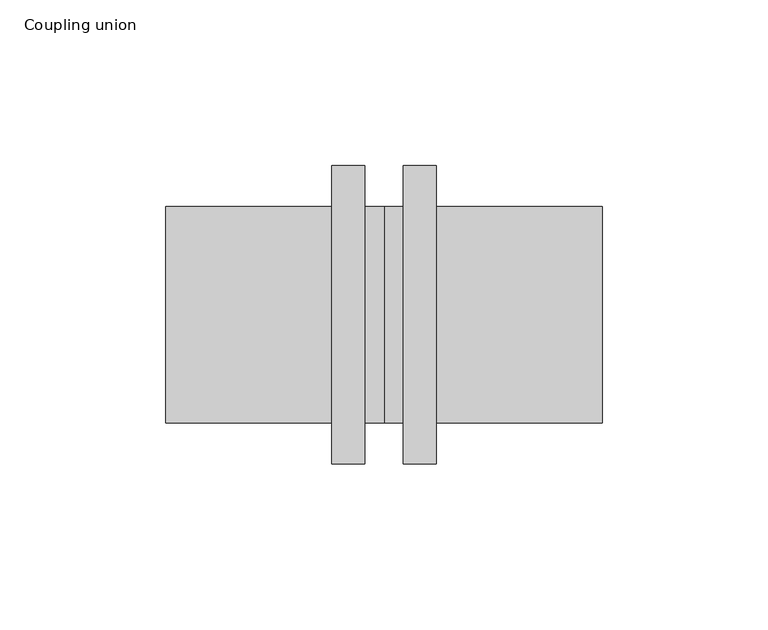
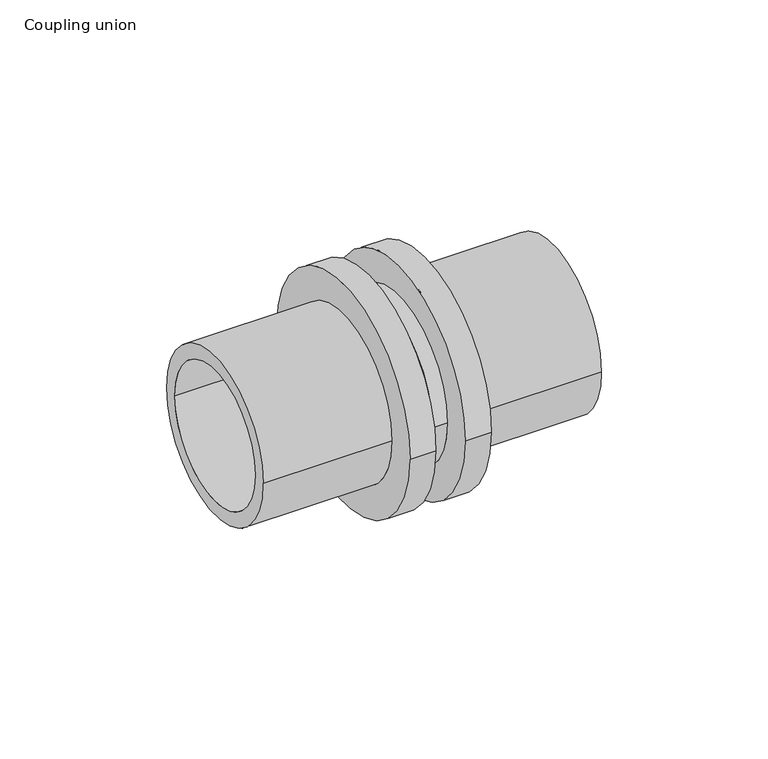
"""IFC4 building model written with IfcOpenShell, lengths in millimetres: pipe fitting geometry, Coupling union : C EQ SDR11 RX."""

from ifc_helpers import new_model, si_unit, frame, origin, place, context, project, spatial, polyline, circle_curve, source, transform, mapped, element, save
from ifc_brep_helpers import plane_surface, cylinder_surface, revolved_surface, advanced_brep


def coupling_union_0abae06c(model_context):
    return source(origin(), model_context, "Body", "AdvancedBrep", [
        advanced_brep(
        [(15.8, 45.0, 0.0), (15.8, -45.0, 0.0), (5.8, -45.0, 0.0), (5.8, 45.0, 0.0), (65.8, 32.7, 0.0), (65.8, -32.7, 0.0), (15.8, -32.7, 0.0), (15.8, 32.7, 0.0), (-65.8, 27.0, 0.0), (-65.8, -27.0, 0.0), (65.8, -27.0, 0.0), (65.8, 27.0, 0.0), (-15.8, 32.7, 0.0), (-15.8, -32.7, 0.0), (-65.8, -32.7, 0.0), (-65.8, 32.7, 0.0), (-5.8, 45.0, 0.0), (-5.8, -45.0, 0.0), (-15.8, -45.0, 0.0), (-15.8, 45.0, 0.0), (0.0, 32.7, 0.0), (0.0, -32.7, 0.0), (-5.8, -32.7, 0.0), (-5.8, 32.7, 0.0), (5.8, 32.7, 0.0), (5.8, -32.7, 0.0)],
        [
            (0, 1, circle_curve(frame((15.8, 0.0, 0.0), z_axis=(-1.0, 0.0, 0.0), x_axis=(0.0, -1.0, 0.0)), 45.0)),
            (1, 2),
            (2, 3, circle_curve(frame((5.8, 0.0, 0.0), z_axis=(1.0, 0.0, 0.0), x_axis=(0.0, -1.0, 0.0)), 45.0)),
            (3, 0),
            (4, 5, circle_curve(frame((65.8, 0.0, 0.0), z_axis=(-1.0, 0.0, 0.0), x_axis=(0.0, -1.0, 0.0)), 32.7)),
            (5, 6),
            (6, 7, circle_curve(frame((15.8, 0.0, 0.0), z_axis=(1.0, 0.0, 0.0), x_axis=(0.0, -1.0, 0.0)), 32.7)),
            (7, 4),
            (8, 9, circle_curve(frame((-65.8, 0.0, 0.0), z_axis=(-1.0, 0.0, 0.0), x_axis=(0.0, -1.0, 0.0)), 27.0)),
            (9, 10),
            (10, 11, circle_curve(frame((65.8, 0.0, 0.0), z_axis=(1.0, 0.0, 0.0), x_axis=(0.0, -1.0, 0.0)), 27.0)),
            (11, 8),
            (12, 13, circle_curve(frame((-15.8, 0.0, 0.0), z_axis=(-1.0, 0.0, 0.0), x_axis=(0.0, -1.0, 0.0)), 32.7)),
            (13, 14),
            (14, 15, circle_curve(frame((-65.8, 0.0, 0.0), z_axis=(1.0, 0.0, 0.0), x_axis=(0.0, -1.0, 0.0)), 32.7)),
            (15, 12),
            (16, 17, circle_curve(frame((-5.8, 0.0, 0.0), z_axis=(-1.0, 0.0, 0.0), x_axis=(0.0, -1.0, 0.0)), 45.0)),
            (17, 18),
            (18, 19, circle_curve(frame((-15.8, 0.0, 0.0), z_axis=(1.0, 0.0, 0.0), x_axis=(0.0, -1.0, 0.0)), 45.0)),
            (19, 16),
            (20, 21, circle_curve(frame((0.0, 0.0, 0.0), z_axis=(-1.0, 0.0, 0.0), x_axis=(0.0, -1.0, 0.0)), 32.7)),
            (21, 22),
            (22, 23, circle_curve(frame((-5.8, 0.0, 0.0), z_axis=(1.0, 0.0, 0.0), x_axis=(0.0, -1.0, 0.0)), 32.7)),
            (23, 20),
            (24, 25, circle_curve(frame((5.8, 0.0, 0.0), z_axis=(-1.0, 0.0, 0.0), x_axis=(0.0, -1.0, 0.0)), 32.7)),
            (25, 21),
            (20, 24),
            (1, 0, circle_curve(frame((15.8, 0.0, 0.0), z_axis=(-1.0, 0.0, 0.0), x_axis=(0.0, 1.0, 0.0)), 45.0)),
            (3, 2, circle_curve(frame((5.8, 0.0, 0.0), z_axis=(1.0, 0.0, 0.0), x_axis=(0.0, 1.0, 0.0)), 45.0)),
            (6, 7, circle_curve(frame((15.8, 0.0, 0.0), z_axis=(-1.0, 0.0, 0.0), x_axis=(0.0, 1.0, 0.0)), 32.7)),
            (5, 4, circle_curve(frame((65.8, 0.0, 0.0), z_axis=(-1.0, 0.0, 0.0), x_axis=(0.0, 1.0, 0.0)), 32.7)),
            (10, 11, circle_curve(frame((65.8, 0.0, 0.0), z_axis=(-1.0, 0.0, 0.0), x_axis=(0.0, 1.0, 0.0)), 27.0)),
            (9, 8, circle_curve(frame((-65.8, 0.0, 0.0), z_axis=(-1.0, 0.0, 0.0), x_axis=(0.0, 1.0, 0.0)), 27.0)),
            (14, 15, circle_curve(frame((-65.8, 0.0, 0.0), z_axis=(-1.0, 0.0, 0.0), x_axis=(0.0, 1.0, 0.0)), 32.7)),
            (13, 12, circle_curve(frame((-15.8, 0.0, 0.0), z_axis=(-1.0, 0.0, 0.0), x_axis=(0.0, 1.0, 0.0)), 32.7)),
            (18, 19, circle_curve(frame((-15.8, 0.0, 0.0), z_axis=(-1.0, 0.0, 0.0), x_axis=(0.0, 1.0, 0.0)), 45.0)),
            (17, 16, circle_curve(frame((-5.8, 0.0, 0.0), z_axis=(-1.0, 0.0, 0.0), x_axis=(0.0, 1.0, 0.0)), 45.0)),
            (22, 23, circle_curve(frame((-5.8, 0.0, 0.0), z_axis=(-1.0, 0.0, 0.0), x_axis=(0.0, 1.0, 0.0)), 32.7)),
            (21, 20, circle_curve(frame((0.0, 0.0, 0.0), z_axis=(-1.0, 0.0, 0.0), x_axis=(0.0, 1.0, 0.0)), 32.7)),
            (25, 24, circle_curve(frame((5.8, 0.0, 0.0), z_axis=(-1.0, 0.0, 0.0), x_axis=(0.0, 1.0, 0.0)), 32.7)),
        ],
        [
            cylinder_surface(frame((0.0, 0.0, 0.0), z_axis=(1.0, 0.0, 0.0), x_axis=(0.0, -1.0, 0.0)), 45.0),
            cylinder_surface(frame((0.0, 0.0, 0.0), z_axis=(1.0, 0.0, 0.0), x_axis=(0.0, -1.0, 0.0)), 32.7),
            revolved_surface(polyline([(65.8, -27.0, 0.0), (-65.8, -27.0, 0.0)]), (0.0, 0.0, 0.0), (1.0, 0.0, 0.0)),
            cylinder_surface(frame((0.0, 0.0, 0.0), z_axis=(1.0, 0.0, 0.0), x_axis=(0.0, 1.0, 0.0)), 45.0),
            plane_surface(frame((15.8, 0.0, 0.0), z_axis=(1.0, 0.0, 0.0), x_axis=(0.0, 1.0, 0.0))),
            cylinder_surface(frame((0.0, 0.0, 0.0), z_axis=(1.0, 0.0, 0.0), x_axis=(0.0, 1.0, 0.0)), 32.7),
            plane_surface(frame((65.8, 0.0, 0.0), z_axis=(1.0, 0.0, 0.0), x_axis=(0.0, 1.0, 0.0))),
            revolved_surface(polyline([(65.8, 27.0, 0.0), (-65.8, 27.0, 0.0)]), (0.0, 0.0, 0.0), (1.0, 0.0, 0.0)),
            plane_surface(frame((-65.8, 0.0, 0.0), z_axis=(-1.0, 0.0, 0.0), x_axis=(0.0, 1.0, 0.0))),
            plane_surface(frame((-15.8, 0.0, 0.0), z_axis=(-1.0, 0.0, 0.0), x_axis=(0.0, 1.0, 0.0))),
            plane_surface(frame((-5.8, 0.0, 0.0), z_axis=(1.0, 0.0, 0.0), x_axis=(0.0, 1.0, 0.0))),
            plane_surface(frame((5.8, 0.0, 0.0), z_axis=(-1.0, 0.0, 0.0), x_axis=(0.0, 1.0, 0.0))),
        ],
        [
            (0, [[1, 2, 3, 4]]),
            (1, [[5, 6, 7, 8]]),
            (2, [[9, 10, 11, 12]]),
            (1, [[13, 14, 15, 16]]),
            (0, [[17, 18, 19, 20]]),
            (1, [[21, 22, 23, 24]]),
            (1, [[25, 26, -21, 27]]),
            (3, [[28, -4, 29, -2]]),
            (4, [[-28, -1], [30, -7]]),
            (5, [[31, -8, -30, -6]]),
            (6, [[-31, -5], [32, -11]]),
            (7, [[33, -12, -32, -10]]),
            (8, [[34, -15], [-33, -9]]),
            (5, [[35, -16, -34, -14]]),
            (9, [[36, -19], [-35, -13]]),
            (3, [[37, -20, -36, -18]]),
            (10, [[-37, -17], [38, -23]]),
            (5, [[39, -24, -38, -22]]),
            (5, [[40, -27, -39, -26]]),
            (11, [[-29, -3], [-40, -25]]),
        ],
    ),
    ])


if __name__ == "__main__":
    model = new_model("IFC4")
    model_context = context("Model", 3, world=origin())
    ifc_project = project(units=[si_unit("LENGTHUNIT", "METRE", prefix="MILLI")], contexts=[model_context])
    site = spatial("IfcSite", under=ifc_project)
    building = spatial("IfcBuilding", under=site)
    placement = place(None, origin())
    coupling_union_shape = coupling_union_0abae06c(model_context)
    element("IfcPipeFitting", 1, ObjectType="Coupling union : C EQ SDR11 RX", at=placement, inside=building, context=model_context, shape_type="MappedRepresentation", body=[
        mapped(coupling_union_shape, transform((0.0, 0.0, 0.0), x_axis=(1.0, 0.0, 0.0), y_axis=(0.0, 1.0, 0.0), z_axis=(0.0, 0.0, 1.0))),
    ])
    save(model, "model.ifc")
